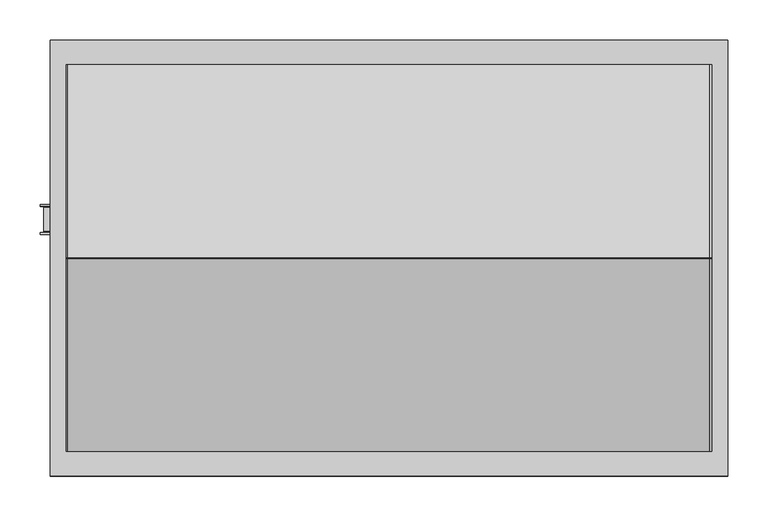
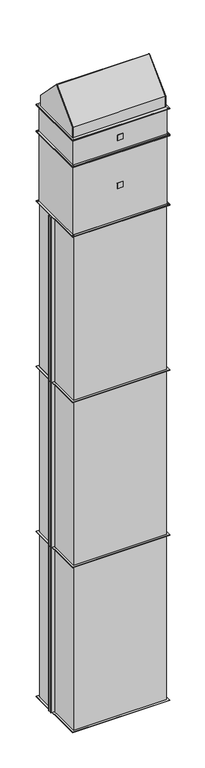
"""IFC4 building model written with IfcOpenShell, lengths in millimetres: proxy geometry, KORF_Завеса_БезНагрева_PWZ_C : PWZ-C 80-50 H."""

from ifc_helpers import new_model, si_unit, point, frame, frame_2d, origin, origin_with_axes, place, context, project, spatial, polyline, circle_curve, trimmed, segment, composite_curve, outline, extrude, source, transform, mapped, element, save


def mechanical_equipment_8cc4688e(model_context):
    return source(origin(), model_context, "Body", "SweptSolid", [
        extrude(outline(polyline([(25.0, -255.0), (-25.0, -255.0), (-25.0, -253.0), (25.0, -253.0), (25.0, -255.0)])), frame((0.0, 0.0, 5231.0), z_axis=(0.0, 0.0, 1.0), x_axis=(1.0, 0.0, 0.0)), (0.0, 0.0, 1.0), 50.0),
        extrude(outline(polyline([(-420.0, -270.0), (-420.0, 270.0), (420.0, 270.0), (420.0, -270.0), (-420.0, -270.0)]), holes=[polyline([(-400.0, -250.0), (400.0, -250.0), (400.0, 250.0), (-400.0, 250.0), (-400.0, -250.0)]), composite_curve([segment(trimmed(circle_curve(frame_2d((410.0, -260.0)), 4.5), [point((414.5, -260.0))], [point((405.5, -260.0))], True, "CARTESIAN"), True, "CONTINUOUS"), segment(trimmed(circle_curve(frame_2d((410.0, -260.0)), 4.5), [point((405.5, -260.0))], [point((414.5, -260.0))], True, "CARTESIAN"), True, "CONTINUOUS")], self_intersect=False), composite_curve([segment(trimmed(circle_curve(frame_2d((-410.0, -260.0)), 4.5), [point((-405.5, -260.0))], [point((-414.5, -260.0))], True, "CARTESIAN"), True, "CONTINUOUS"), segment(trimmed(circle_curve(frame_2d((-410.0, -260.0)), 4.5), [point((-414.5, -260.0))], [point((-405.5, -260.0))], True, "CARTESIAN"), True, "CONTINUOUS")], self_intersect=False), composite_curve([segment(trimmed(circle_curve(frame_2d((-410.0, 260.0)), 4.5), [point((-405.5, 260.0))], [point((-414.5, 260.0))], True, "CARTESIAN"), True, "CONTINUOUS"), segment(trimmed(circle_curve(frame_2d((-410.0, 260.0)), 4.5), [point((-414.5, 260.0))], [point((-405.5, 260.0))], True, "CARTESIAN"), True, "CONTINUOUS")], self_intersect=False), composite_curve([segment(trimmed(circle_curve(frame_2d((410.0, 260.0)), 4.5), [point((414.5, 260.0))], [point((405.5, 260.0))], True, "CARTESIAN"), True, "CONTINUOUS"), segment(trimmed(circle_curve(frame_2d((410.0, 260.0)), 4.5), [point((405.5, 260.0))], [point((414.5, 260.0))], True, "CARTESIAN"), True, "CONTINUOUS")], self_intersect=False)]), frame((0.0, 0.0, 5135.0), z_axis=(0.0, 0.0, 1.0), x_axis=(1.0, 0.0, 0.0)), (0.0, 0.0, 1.0), 5.0),
        extrude(outline(polyline([(-420.0, -270.0), (-420.0, 270.0), (420.0, 270.0), (420.0, -270.0), (-420.0, -270.0)]), holes=[polyline([(-400.0, -250.0), (400.0, -250.0), (400.0, 250.0), (-400.0, 250.0), (-400.0, -250.0)]), composite_curve([segment(trimmed(circle_curve(frame_2d((410.0, -260.0)), 4.5), [point((414.5, -260.0))], [point((405.5, -260.0))], True, "CARTESIAN"), True, "CONTINUOUS"), segment(trimmed(circle_curve(frame_2d((410.0, -260.0)), 4.5), [point((405.5, -260.0))], [point((414.5, -260.0))], True, "CARTESIAN"), True, "CONTINUOUS")], self_intersect=False), composite_curve([segment(trimmed(circle_curve(frame_2d((-410.0, -260.0)), 4.5), [point((-405.5, -260.0))], [point((-414.5, -260.0))], True, "CARTESIAN"), True, "CONTINUOUS"), segment(trimmed(circle_curve(frame_2d((-410.0, -260.0)), 4.5), [point((-414.5, -260.0))], [point((-405.5, -260.0))], True, "CARTESIAN"), True, "CONTINUOUS")], self_intersect=False), composite_curve([segment(trimmed(circle_curve(frame_2d((-410.0, 260.0)), 4.5), [point((-405.5, 260.0))], [point((-414.5, 260.0))], True, "CARTESIAN"), True, "CONTINUOUS"), segment(trimmed(circle_curve(frame_2d((-410.0, 260.0)), 4.5), [point((-414.5, 260.0))], [point((-405.5, 260.0))], True, "CARTESIAN"), True, "CONTINUOUS")], self_intersect=False), composite_curve([segment(trimmed(circle_curve(frame_2d((410.0, 260.0)), 4.5), [point((414.5, 260.0))], [point((405.5, 260.0))], True, "CARTESIAN"), True, "CONTINUOUS"), segment(trimmed(circle_curve(frame_2d((410.0, 260.0)), 4.5), [point((405.5, 260.0))], [point((414.5, 260.0))], True, "CARTESIAN"), True, "CONTINUOUS")], self_intersect=False)]), frame((0.0, 0.0, 5372.0), z_axis=(0.0, 0.0, 1.0), x_axis=(1.0, 0.0, 0.0)), (0.0, 0.0, 1.0), 5.0),
        extrude(outline(polyline([(-403.0, -253.0), (-403.0, 253.0), (403.0, 253.0), (403.0, -253.0), (-403.0, -253.0)])), frame((0.0, 0.0, 5140.0), z_axis=(0.0, 0.0, 1.0), x_axis=(1.0, 0.0, 0.0)), (0.0, 0.0, 1.0), 232.0),
        extrude(outline(polyline([(25.0, -255.0), (-25.0, -255.0), (-25.0, -253.0), (25.0, -253.0), (25.0, -255.0)])), frame((0.0, 0.0, 4792.5), z_axis=(0.0, 0.0, 1.0), x_axis=(1.0, 0.0, 0.0)), (0.0, 0.0, 1.0), 50.0),
        extrude(outline(polyline([(420.0, -270.0), (-420.0, -270.0), (-420.0, 270.0), (420.0, 270.0), (420.0, -270.0)]), holes=[polyline([(400.0, -250.0), (400.0, 250.0), (-400.0, 250.0), (-400.0, -250.0), (400.0, -250.0)]), composite_curve([segment(trimmed(circle_curve(frame_2d((-410.0, -260.0)), 4.5), [point((-405.5, -260.0))], [point((-414.5, -260.0))], True, "CARTESIAN"), True, "CONTINUOUS"), segment(trimmed(circle_curve(frame_2d((-410.0, -260.0)), 4.5), [point((-414.5, -260.0))], [point((-405.5, -260.0))], True, "CARTESIAN"), True, "CONTINUOUS")], self_intersect=False), composite_curve([segment(trimmed(circle_curve(frame_2d((410.0, -260.0)), 4.5), [point((414.5, -260.0))], [point((405.5, -260.0))], True, "CARTESIAN"), True, "CONTINUOUS"), segment(trimmed(circle_curve(frame_2d((410.0, -260.0)), 4.5), [point((405.5, -260.0))], [point((414.5, -260.0))], True, "CARTESIAN"), True, "CONTINUOUS")], self_intersect=False), composite_curve([segment(trimmed(circle_curve(frame_2d((410.0, 260.0)), 4.5), [point((414.5, 260.0))], [point((405.5, 260.0))], True, "CARTESIAN"), True, "CONTINUOUS"), segment(trimmed(circle_curve(frame_2d((410.0, 260.0)), 4.5), [point((405.5, 260.0))], [point((414.5, 260.0))], True, "CARTESIAN"), True, "CONTINUOUS")], self_intersect=False), composite_curve([segment(trimmed(circle_curve(frame_2d((-410.0, 260.0)), 4.5), [point((-405.5, 260.0))], [point((-414.5, 260.0))], True, "CARTESIAN"), True, "CONTINUOUS"), segment(trimmed(circle_curve(frame_2d((-410.0, 260.0)), 4.5), [point((-414.5, 260.0))], [point((-405.5, 260.0))], True, "CARTESIAN"), True, "CONTINUOUS")], self_intersect=False)]), frame((0.0, 0.0, 5130.0), z_axis=(0.0, 0.0, 1.0), x_axis=(1.0, 0.0, 0.0)), (0.0, 0.0, 1.0), 5.0),
        extrude(outline(polyline([(420.0, -270.0), (-420.0, -270.0), (-420.0, 270.0), (420.0, 270.0), (420.0, -270.0)]), holes=[polyline([(400.0, -250.0), (400.0, 250.0), (-400.0, 250.0), (-400.0, -250.0), (400.0, -250.0)]), composite_curve([segment(trimmed(circle_curve(frame_2d((-410.0, -260.0)), 4.5), [point((-405.5, -260.0))], [point((-414.5, -260.0))], True, "CARTESIAN"), True, "CONTINUOUS"), segment(trimmed(circle_curve(frame_2d((-410.0, -260.0)), 4.5), [point((-414.5, -260.0))], [point((-405.5, -260.0))], True, "CARTESIAN"), True, "CONTINUOUS")], self_intersect=False), composite_curve([segment(trimmed(circle_curve(frame_2d((410.0, -260.0)), 4.5), [point((414.5, -260.0))], [point((405.5, -260.0))], True, "CARTESIAN"), True, "CONTINUOUS"), segment(trimmed(circle_curve(frame_2d((410.0, -260.0)), 4.5), [point((405.5, -260.0))], [point((414.5, -260.0))], True, "CARTESIAN"), True, "CONTINUOUS")], self_intersect=False), composite_curve([segment(trimmed(circle_curve(frame_2d((410.0, 260.0)), 4.5), [point((414.5, 260.0))], [point((405.5, 260.0))], True, "CARTESIAN"), True, "CONTINUOUS"), segment(trimmed(circle_curve(frame_2d((410.0, 260.0)), 4.5), [point((405.5, 260.0))], [point((414.5, 260.0))], True, "CARTESIAN"), True, "CONTINUOUS")], self_intersect=False), composite_curve([segment(trimmed(circle_curve(frame_2d((-410.0, 260.0)), 4.5), [point((-405.5, 260.0))], [point((-414.5, 260.0))], True, "CARTESIAN"), True, "CONTINUOUS"), segment(trimmed(circle_curve(frame_2d((-410.0, 260.0)), 4.5), [point((-414.5, 260.0))], [point((-405.5, 260.0))], True, "CARTESIAN"), True, "CONTINUOUS")], self_intersect=False)]), frame((0.0, 0.0, 4500.0), z_axis=(0.0, 0.0, 1.0), x_axis=(1.0, 0.0, 0.0)), (0.0, 0.0, 1.0), 5.0),
        extrude(outline(polyline([(403.0, -253.0), (-403.0, -253.0), (-403.0, 253.0), (403.0, 253.0), (403.0, -253.0)])), frame((0.0, 0.0, 4505.0), z_axis=(0.0, 0.0, 1.0), x_axis=(1.0, 0.0, 0.0)), (0.0, 0.0, 1.0), 625.0),
        extrude(outline(polyline([(400.0, 250.0), (400.0, -250.0), (-400.0, -250.0), (-400.0, 250.0), (400.0, 250.0)])), frame((0.0, 0.0, 3000.0), z_axis=(0.0, 0.0, 1.0), x_axis=(1.0, 0.0, 0.0)), (0.0, 0.0, 1.0), 1500.0),
        extrude(outline(polyline([(-428.0, 62.5), (-400.0, 62.5), (-400.0, 33.5), (-428.0, 33.5), (-428.0, 62.5)])), frame((0.0, 0.0, 3002.0), z_axis=(0.0, 0.0, 1.0), x_axis=(1.0, 0.0, 0.0)), (0.0, 0.0, 1.0), 1496.0),
        extrude(outline(polyline([(-432.0, 66.5), (-400.0, 66.5), (-400.0, 64.5), (-432.0, 64.5), (-432.0, 66.5)])), frame((0.0, 0.0, 3002.0), z_axis=(0.0, 0.0, 1.0), x_axis=(1.0, 0.0, 0.0)), (0.0, 0.0, 1.0), 1496.0),
        extrude(outline(polyline([(-432.0, 29.5), (-432.0, 31.5), (-400.0, 31.5), (-400.0, 29.5), (-432.0, 29.5)])), frame((0.0, 0.0, 3002.0), z_axis=(0.0, 0.0, 1.0), x_axis=(1.0, 0.0, 0.0)), (0.0, 0.0, 1.0), 1496.0),
        extrude(outline(polyline([(420.0, 270.0), (420.0, -270.0), (-420.0, -270.0), (-420.0, 270.0), (420.0, 270.0)]), holes=[polyline([(400.0, 250.0), (-400.0, 250.0), (-400.0, -250.0), (400.0, -250.0), (400.0, 250.0)])]), frame((0.0, 0.0, 4498.0), z_axis=(0.0, 0.0, 1.0), x_axis=(1.0, 0.0, 0.0)), (0.0, 0.0, 1.0), 2.0),
        extrude(outline(polyline([(420.0, 270.0), (420.0, -270.0), (-420.0, -270.0), (-420.0, 270.0), (420.0, 270.0)]), holes=[polyline([(400.0, 250.0), (-400.0, 250.0), (-400.0, -250.0), (400.0, -250.0), (400.0, 250.0)])]), frame((0.0, 0.0, 3000.0), z_axis=(0.0, 0.0, 1.0), x_axis=(1.0, 0.0, 0.0)), (0.0, 0.0, 1.0), 2.0),
        extrude(outline(polyline([(400.0, 250.0), (400.0, -250.0), (-400.0, -250.0), (-400.0, 250.0), (400.0, 250.0)])), frame((0.0, 0.0, 1500.0), z_axis=(0.0, 0.0, 1.0), x_axis=(1.0, 0.0, 0.0)), (0.0, 0.0, 1.0), 1500.0),
        extrude(outline(polyline([(-428.0, 62.5), (-400.0, 62.5), (-400.0, 33.5), (-428.0, 33.5), (-428.0, 62.5)])), frame((0.0, 0.0, 1502.0), z_axis=(0.0, 0.0, 1.0), x_axis=(1.0, 0.0, 0.0)), (0.0, 0.0, 1.0), 1496.0),
        extrude(outline(polyline([(-432.0, 66.5), (-400.0, 66.5), (-400.0, 64.5), (-432.0, 64.5), (-432.0, 66.5)])), frame((0.0, 0.0, 1502.0), z_axis=(0.0, 0.0, 1.0), x_axis=(1.0, 0.0, 0.0)), (0.0, 0.0, 1.0), 1496.0),
        extrude(outline(polyline([(-432.0, 29.5), (-432.0, 31.5), (-400.0, 31.5), (-400.0, 29.5), (-432.0, 29.5)])), frame((0.0, 0.0, 1502.0), z_axis=(0.0, 0.0, 1.0), x_axis=(1.0, 0.0, 0.0)), (0.0, 0.0, 1.0), 1496.0),
        extrude(outline(polyline([(420.0, 270.0), (420.0, -270.0), (-420.0, -270.0), (-420.0, 270.0), (420.0, 270.0)]), holes=[polyline([(400.0, 250.0), (-400.0, 250.0), (-400.0, -250.0), (400.0, -250.0), (400.0, 250.0)])]), frame((0.0, 0.0, 2998.0), z_axis=(0.0, 0.0, 1.0), x_axis=(1.0, 0.0, 0.0)), (0.0, 0.0, 1.0), 2.0),
        extrude(outline(polyline([(420.0, 270.0), (420.0, -270.0), (-420.0, -270.0), (-420.0, 270.0), (420.0, 270.0)]), holes=[polyline([(400.0, 250.0), (-400.0, 250.0), (-400.0, -250.0), (400.0, -250.0), (400.0, 250.0)])]), frame((0.0, 0.0, 1500.0), z_axis=(0.0, 0.0, 1.0), x_axis=(1.0, 0.0, 0.0)), (0.0, 0.0, 1.0), 2.0),
        extrude(outline(polyline([(400.0, 250.0), (400.0, -250.0), (-400.0, -250.0), (-400.0, 250.0), (400.0, 250.0)])), origin_with_axes(), (0.0, 0.0, 1.0), 1500.0),
        extrude(outline(polyline([(-428.0, 62.5), (-400.0, 62.5), (-400.0, 33.5), (-428.0, 33.5), (-428.0, 62.5)])), frame((0.0, 0.0, 2.0), z_axis=(0.0, 0.0, 1.0), x_axis=(1.0, 0.0, 0.0)), (0.0, 0.0, 1.0), 1496.0),
        extrude(outline(polyline([(-432.0, 66.5), (-400.0, 66.5), (-400.0, 64.5), (-432.0, 64.5), (-432.0, 66.5)])), frame((0.0, 0.0, 2.0), z_axis=(0.0, 0.0, 1.0), x_axis=(1.0, 0.0, 0.0)), (0.0, 0.0, 1.0), 1496.0),
        extrude(outline(polyline([(-432.0, 29.5), (-432.0, 31.5), (-400.0, 31.5), (-400.0, 29.5), (-432.0, 29.5)])), frame((0.0, 0.0, 2.0), z_axis=(0.0, 0.0, 1.0), x_axis=(1.0, 0.0, 0.0)), (0.0, 0.0, 1.0), 1496.0),
        extrude(outline(polyline([(420.0, 270.0), (420.0, -270.0), (-420.0, -270.0), (-420.0, 270.0), (420.0, 270.0)]), holes=[polyline([(400.0, 250.0), (-400.0, 250.0), (-400.0, -250.0), (400.0, -250.0), (400.0, 250.0)])]), frame((0.0, 0.0, 1498.0), z_axis=(0.0, 0.0, 1.0), x_axis=(1.0, 0.0, 0.0)), (0.0, 0.0, 1.0), 2.0),
        extrude(outline(polyline([(420.0, 270.0), (420.0, -270.0), (-420.0, -270.0), (-420.0, 270.0), (420.0, 270.0)]), holes=[polyline([(400.0, 250.0), (-400.0, 250.0), (-400.0, -250.0), (400.0, -250.0), (400.0, 250.0)])]), origin_with_axes(), (0.0, 0.0, 1.0), 2.0),
        extrude(outline(composite_curve([segment(polyline([(240.0, 5474.1428571), (240.0, 5379.0), (-240.0, 5379.0), (-240.0, 5474.1428571), (-0.6395979, 5716.3786763)]), True, "CONTINUOUS"), segment(trimmed(circle_curve(frame_2d((0.0, 5715.7202668)), 0.9179263), [point((-0.6395979, 5716.3786763))], [point((0.6395979, 5716.3786763))], False, "CARTESIAN"), True, "CONTINUOUS"), segment(polyline([(0.6395979, 5716.3786763), (240.0, 5474.1428571)]), True, "CONTINUOUS")], self_intersect=False)), frame((398.0, 0.0, 0.0), z_axis=(1.0, 0.0, 0.0), x_axis=(0.0, 1.0, 0.0)), (0.0, 0.0, 1.0), 2.0),
        extrude(outline(composite_curve([segment(polyline([(240.0, 5474.1428571), (240.0, 5379.0), (-240.0, 5379.0), (-240.0, 5474.1428571), (-0.6395979, 5716.3786763)]), True, "CONTINUOUS"), segment(trimmed(circle_curve(frame_2d((0.0, 5715.7202668)), 0.9179263), [point((-0.6395979, 5716.3786763))], [point((0.6395979, 5716.3786763))], False, "CARTESIAN"), True, "CONTINUOUS"), segment(polyline([(0.6395979, 5716.3786763), (240.0, 5474.1428571)]), True, "CONTINUOUS")], self_intersect=False)), frame((-398.0, 0.0, 0.0), z_axis=(1.0, 0.0, 0.0), x_axis=(0.0, 1.0, 0.0)), (0.0, 0.0, 1.0), 796.0),
        extrude(outline(composite_curve([segment(polyline([(240.0, 5474.1428571), (240.0, 5379.0), (-240.0, 5379.0), (-240.0, 5474.1428571), (-0.6395979, 5716.3786763)]), True, "CONTINUOUS"), segment(trimmed(circle_curve(frame_2d((0.0, 5715.7202668)), 0.9179263), [point((-0.6395979, 5716.3786763))], [point((0.6395979, 5716.3786763))], False, "CARTESIAN"), True, "CONTINUOUS"), segment(polyline([(0.6395979, 5716.3786763), (240.0, 5474.1428571)]), True, "CONTINUOUS")], self_intersect=False)), frame((-400.0, 0.0, 0.0), z_axis=(1.0, 0.0, 0.0), x_axis=(0.0, 1.0, 0.0)), (0.0, 0.0, 1.0), 2.0),
        extrude(outline(polyline([(420.0, 270.0), (420.0, -270.0), (-420.0, -270.0), (-420.0, 270.0), (420.0, 270.0)]), holes=[polyline([(-400.0, 240.0), (-400.0, -240.0), (400.0, -240.0), (400.0, 240.0), (-400.0, 240.0)])]), frame((0.0, 0.0, 5377.0), z_axis=(0.0, 0.0, 1.0), x_axis=(1.0, 0.0, 0.0)), (0.0, 0.0, 1.0), 2.0),
    ])


if __name__ == "__main__":
    model = new_model("IFC4")
    model_context = context("Model", 3, world=origin())
    ifc_project = project(units=[si_unit("LENGTHUNIT", "METRE", prefix="MILLI")], contexts=[model_context])
    site = spatial("IfcSite", under=ifc_project)
    building = spatial("IfcBuilding", under=site)
    placement = place(None, origin())
    mechanical_equipment_shape = mechanical_equipment_8cc4688e(model_context)
    element("IfcBuildingElementProxy", 1, Name="KORF_Завеса_БезНагрева_PWZ_C : PWZ-C 80-50 H", ObjectType="KORF_Завеса_БезНагрева_PWZ_C : PWZ-C 80-50 H", at=placement, inside=building, context=model_context, shape_type="MappedRepresentation", body=[
        mapped(mechanical_equipment_shape, transform((0.0, 0.0, 0.0), x_axis=(1.0, 0.0, 0.0), y_axis=(0.0, 1.0, 0.0), z_axis=(0.0, 0.0, 1.0))),
    ])
    save(model, "model.ifc")
